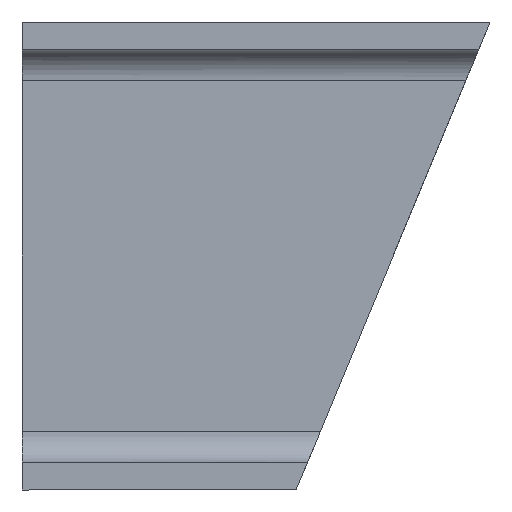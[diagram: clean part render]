
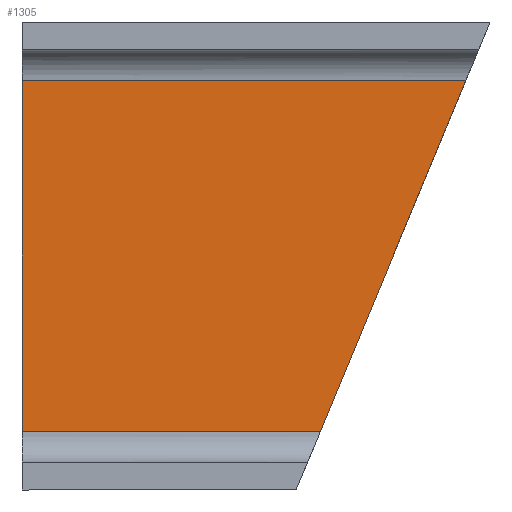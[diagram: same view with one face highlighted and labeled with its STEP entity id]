
A CAD part, front view. The second image highlights one B-rep face of the part: STEP entity #1305.
In plain terms, the highlighted planar face has unit normal (0, -1, 0).
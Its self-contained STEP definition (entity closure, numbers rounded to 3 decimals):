
#77 = CARTESIAN_POINT ( 'NONE',  ( 11250., 3., 2232.5 ) ) ;
#129 = EDGE_CURVE ( 'NONE', #2933, #222, #1293, .T. ) ;
#222 = VERTEX_POINT ( 'NONE', #625 ) ;
#355 = CARTESIAN_POINT ( 'NONE',  ( 11194.315, 3., 2255.565 ) ) ;
#411 = CARTESIAN_POINT ( 'NONE',  ( 11184.761, 3., 2232.5 ) ) ;
#549 = DIRECTION ( 'NONE',  ( -1., 0., 0. ) ) ;
#625 = CARTESIAN_POINT ( 'NONE',  ( 11070., 3., 2232.5 ) ) ;
#698 = VECTOR ( 'NONE', #549, 1000. ) ;
#885 = PLANE ( 'NONE',  #2300 ) ;
#1293 = LINE ( 'NONE', #77, #698 ) ;
#1305 = ADVANCED_FACE ( 'NONE', ( #1596 ), #885, .F. ) ;
#1341 = ORIENTED_EDGE ( 'NONE', *, *, #3157, .T. ) ;
#1367 = DIRECTION ( 'NONE',  ( -0.383, 0., -0.924 ) ) ;
#1422 = CARTESIAN_POINT ( 'NONE',  ( 11070., 3., 2232.5 ) ) ;
#1428 = EDGE_CURVE ( 'NONE', #1945, #222, #1932, .T. ) ;
#1595 = VECTOR ( 'NONE', #1673, 1000. ) ;
#1596 = FACE_OUTER_BOUND ( 'NONE', #3143, .T. ) ;
#1633 = CARTESIAN_POINT ( 'NONE',  ( 11240.68, 3., 2367.5 ) ) ;
#1663 = VERTEX_POINT ( 'NONE', #1633 ) ;
#1673 = DIRECTION ( 'NONE',  ( 0., 0., -1. ) ) ;
#1744 = ORIENTED_EDGE ( 'NONE', *, *, #1428, .T. ) ;
#1901 = DIRECTION ( 'NONE',  ( 0., 1., 0. ) ) ;
#1932 = LINE ( 'NONE', #1422, #1595 ) ;
#1945 = VERTEX_POINT ( 'NONE', #3232 ) ;
#2046 = LINE ( 'NONE', #2571, #2140 ) ;
#2096 = DIRECTION ( 'NONE',  ( -1., 0., 0. ) ) ;
#2121 = CARTESIAN_POINT ( 'NONE',  ( 11250., 3., 2232.5 ) ) ;
#2140 = VECTOR ( 'NONE', #2096, 1000. ) ;
#2190 = EDGE_CURVE ( 'NONE', #1663, #2933, #2648, .T. ) ;
#2300 = AXIS2_PLACEMENT_3D ( 'NONE', #2121, #1901, #2627 ) ;
#2451 = ORIENTED_EDGE ( 'NONE', *, *, #129, .F. ) ;
#2571 = CARTESIAN_POINT ( 'NONE',  ( 11250., 3., 2367.5 ) ) ;
#2621 = VECTOR ( 'NONE', #1367, 1000. ) ;
#2625 = ORIENTED_EDGE ( 'NONE', *, *, #2190, .F. ) ;
#2627 = DIRECTION ( 'NONE',  ( 0., 0., 1. ) ) ;
#2648 = LINE ( 'NONE', #355, #2621 ) ;
#2933 = VERTEX_POINT ( 'NONE', #411 ) ;
#3143 = EDGE_LOOP ( 'NONE', ( #2625, #1341, #1744, #2451 ) ) ;
#3157 = EDGE_CURVE ( 'NONE', #1663, #1945, #2046, .T. ) ;
#3232 = CARTESIAN_POINT ( 'NONE',  ( 11070., 3., 2367.5 ) ) ;
